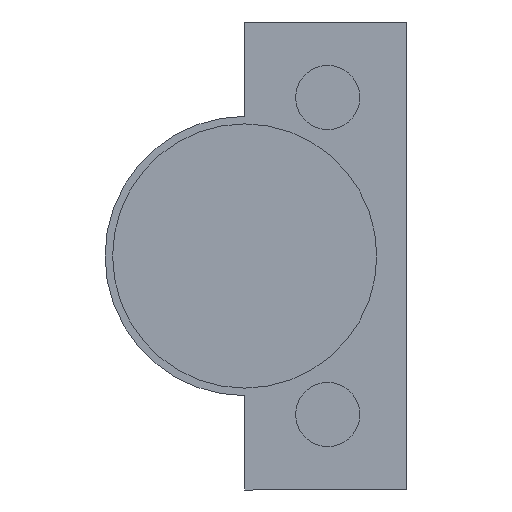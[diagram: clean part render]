
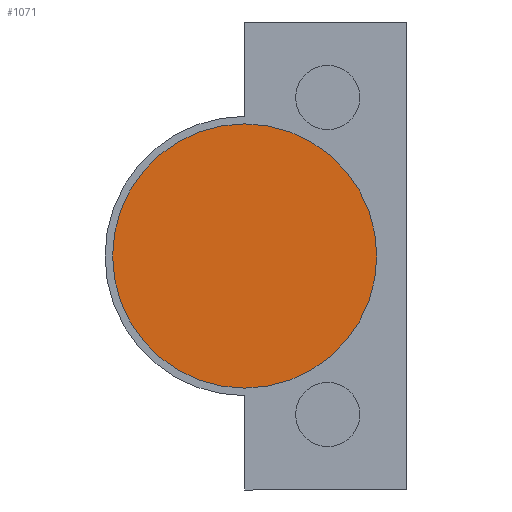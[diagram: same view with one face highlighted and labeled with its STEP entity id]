
A CAD part, front view. The second image highlights one B-rep face of the part: STEP entity #1071.
In plain terms, the highlighted planar face has unit normal (0, -1, 0).
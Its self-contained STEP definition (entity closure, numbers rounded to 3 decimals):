
#82 = EDGE_CURVE ( 'NONE', #976, #969, #1562, .T. ) ;
#110 = EDGE_CURVE ( 'NONE', #969, #976, #1608, .T. ) ;
#159 = AXIS2_PLACEMENT_3D ( 'NONE', #777, #772, #771 ) ;
#170 = FACE_OUTER_BOUND ( 'NONE', #1364, .T. ) ;
#256 = DIRECTION ( 'NONE',  ( 1., 0., 0. ) ) ;
#367 = DIRECTION ( 'NONE',  ( 1., 0., 0. ) ) ;
#379 = CARTESIAN_POINT ( 'NONE',  ( 12., -12.6, 0. ) ) ;
#406 = DIRECTION ( 'NONE',  ( 0., -1., 0. ) ) ;
#407 = PLANE ( 'NONE',  #723 ) ;
#411 = CARTESIAN_POINT ( 'NONE',  ( 12., -12.6, 0. ) ) ;
#425 = DIRECTION ( 'NONE',  ( 0., -1., 0. ) ) ;
#569 = CARTESIAN_POINT ( 'NONE',  ( 29.5, -12.6, 0. ) ) ;
#570 = CARTESIAN_POINT ( 'NONE',  ( -5.5, -12.6, 0. ) ) ;
#723 = AXIS2_PLACEMENT_3D ( 'NONE', #411, #425, #367 ) ;
#764 = AXIS2_PLACEMENT_3D ( 'NONE', #379, #406, #256 ) ;
#771 = DIRECTION ( 'NONE',  ( 1., 0., 0. ) ) ;
#772 = DIRECTION ( 'NONE',  ( 0., -1., 0. ) ) ;
#777 = CARTESIAN_POINT ( 'NONE',  ( 12., -12.6, 0. ) ) ;
#969 = VERTEX_POINT ( 'NONE', #569 ) ;
#976 = VERTEX_POINT ( 'NONE', #570 ) ;
#1071 = ADVANCED_FACE ( 'NONE', ( #170 ), #407, .T. ) ;
#1192 = ORIENTED_EDGE ( 'NONE', *, *, #82, .T. ) ;
#1193 = ORIENTED_EDGE ( 'NONE', *, *, #110, .T. ) ;
#1364 = EDGE_LOOP ( 'NONE', ( #1192, #1193 ) ) ;
#1562 = CIRCLE ( 'NONE', #159, 17.5 ) ;
#1608 = CIRCLE ( 'NONE', #764, 17.5 ) ;
